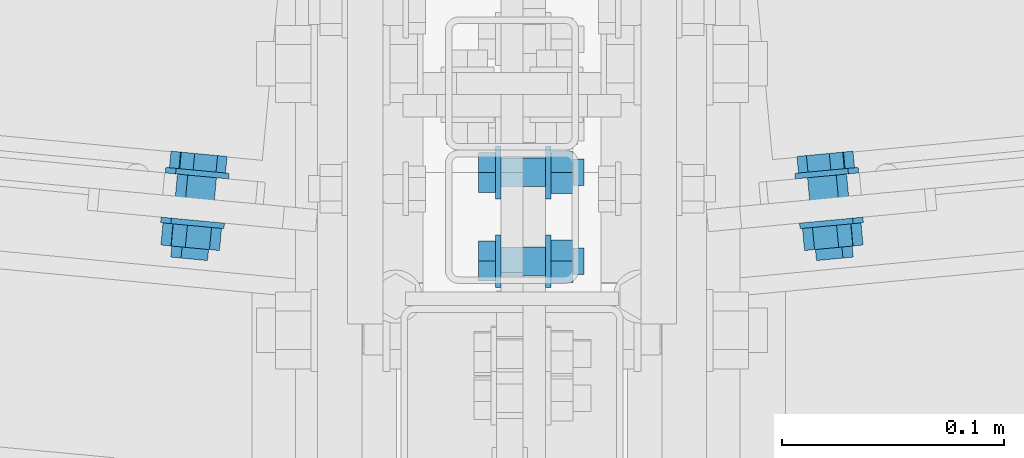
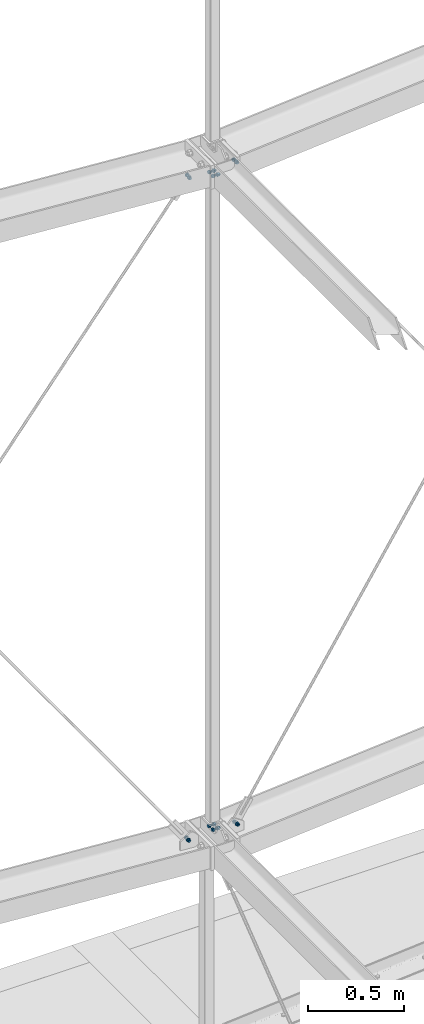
# One storey, part 245 of 271: 6 mechanical fasteners, 5 elements without a shape of their own.
"""IFC2X3 building model written with IfcOpenShell, lengths in millimetres."""

from ifc_helpers import new_model, si_unit, frame, origin_with_axes, origin_2d_with_axis, place, context, subcontext, project, spatial, polyline, circle, outline, extrude, source, transform, mapped, material, type_object, element, aggregate, save


model = new_model("IFC2X3")

# Units and contexts
model_context = context("Model", 3, precision=1e-05, world=origin_with_axes())
body_context = subcontext(model_context, "Body", "Model", "MODEL_VIEW")
ifc_project = project(units=[si_unit("LENGTHUNIT", "METRE", prefix="MILLI"), si_unit("AREAUNIT", "SQUARE_METRE"), si_unit("VOLUMEUNIT", "CUBIC_METRE"), si_unit("MASSUNIT", "GRAM", prefix="KILO"), si_unit("TIMEUNIT", "SECOND"), si_unit("PLANEANGLEUNIT", "RADIAN"), si_unit("SOLIDANGLEUNIT", "STERADIAN"), si_unit("THERMODYNAMICTEMPERATUREUNIT", "DEGREE_CELSIUS"), si_unit("LUMINOUSINTENSITYUNIT", "LUMEN")], contexts=[model_context])

# Site, building, storey
site_placement = place(None, origin_with_axes())
site = spatial("IfcSite", under=ifc_project, at=site_placement, Name="Undefined", CompositionType="ELEMENT")
building_placement = place(site_placement, origin_with_axes())
building = spatial("IfcBuilding", under=site, at=building_placement, Name="Undefined", CompositionType="ELEMENT")
storey_placement = place(building_placement, origin_with_axes())
storey = spatial("IfcBuildingStorey", under=building, at=storey_placement, Name="Undefined", CompositionType="ELEMENT", Elevation=0.0)

# Assembly, mechanical fastener
assembly_1_placement = place(storey_placement, origin_with_axes())
assembly_1 = element("IfcElementAssembly", 1, at=assembly_1_placement, inside=storey, AssemblyPlace="NOTDEFINED", PredefinedType="RIGID_FRAME")
ifc_material = material(Name="Undefined")
mechanical_fastener_type = type_object("IfcMechanicalFastenerType", Name="Bolt assembly")
shared_shape = source(origin_with_axes(), body_context, "Body", "SweptSolid", [
    extrude(circle(Radius=6.5, at=origin_2d_with_axis()), frame((0.0, -5.1, 0.0), z_axis=(0.0, 1.0, 0.0), x_axis=(1.0, 0.0, 0.0)), (0.0, 0.0, 1.0), 10.1),
    extrude(circle(Radius=6.5, at=origin_2d_with_axis()), frame((0.0, -14.9000000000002, 0.0), z_axis=(0.0, 1.0, 0.0), x_axis=(1.0, 0.0, 0.0)), (0.0, 0.0, 1.0), 10.0),
    extrude(outline(polyline([(10.39230484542, 0.0), (5.19615242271, 9.00000000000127), (-5.19615242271, 9.00000000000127), (-10.39230484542, 0.0), (-5.19615242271, -9.00000000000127), (5.19615242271, -9.00000000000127), (10.39230484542, 0.0)])), frame((0.0, -25.0000000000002, 0.0), z_axis=(0.0, 1.0, 0.0), x_axis=(1.0, 0.0, 0.0)), (0.0, 0.0, 1.0), 7.5),
    extrude(circle(Radius=6.0, at=origin_2d_with_axis()), frame((0.0, -17.5000000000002, 0.0), z_axis=(0.0, 1.0, 0.0), x_axis=(1.0, 0.0, 0.0)), (0.0, 0.0, 1.0), 40.0),
    extrude(circle(Radius=12.0, at=origin_2d_with_axis()), frame((0.0, -17.5000000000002, 0.0), z_axis=(0.0, 1.0, 0.0), x_axis=(1.0, 0.0, 0.0)), (0.0, 0.0, 1.0), 2.5),
    extrude(circle(Radius=12.0, at=origin_2d_with_axis()), frame((0.0, 5.00000000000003, 0.0), z_axis=(0.0, 1.0, 0.0), x_axis=(1.0, 0.0, 0.0)), (0.0, 0.0, 1.0), 2.5),
    extrude(outline(polyline([(10.96965511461, 0.0), (5.484827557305, 9.50000000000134), (-5.484827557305, 9.50000000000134), (-10.96965511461, 0.0), (-5.484827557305, -9.50000000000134), (5.484827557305, -9.50000000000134), (10.96965511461, 0.0)])), frame((0.0, 7.50000000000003, 0.0), z_axis=(0.0, 1.0, 0.0), x_axis=(1.0, 0.0, 0.0)), (0.0, 0.0, 1.0), 10.0),
])
mechanical_fastener_1_placement = place(assembly_1_placement, frame((6493.9122341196, 3708.61559757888, 1424.26219584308), z_axis=(0.809602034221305, 0.0763236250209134, -0.5819959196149), x_axis=(0.579416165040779, 0.0547372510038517, 0.813191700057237)))
mechanical_fastener_1 = element("IfcMechanicalFastener", 2, at=mechanical_fastener_1_placement, type_object=mechanical_fastener_type, material=ifc_material, Name="Bolt assembly", NominalDiameter=12.0, NominalLength=40.0, context=body_context, shape_type="MappedRepresentation", body=[
    mapped(shared_shape, transform((0.0, 0.0, 0.0))),
])
aggregate(assembly_1, [mechanical_fastener_1])

assembly_2_placement = place(storey_placement, origin_with_axes())
assembly_2 = element("IfcElementAssembly", 3, at=assembly_2_placement, inside=storey, AssemblyPlace="NOTDEFINED", PredefinedType="RIGID_FRAME")
mechanical_fastener_2_placement = place(assembly_2_placement, frame((6489.27550537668, 3708.17756918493, 5624.4318668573), z_axis=(-0.809182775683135, -0.0762839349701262, -0.582583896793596), x_axis=(0.580001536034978, 0.0547925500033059, -0.81277056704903)))
mechanical_fastener_2 = element("IfcMechanicalFastener", 4, at=mechanical_fastener_2_placement, type_object=mechanical_fastener_type, material=ifc_material, Name="Bolt assembly", NominalDiameter=12.0, NominalLength=40.0, context=body_context, shape_type="MappedRepresentation", body=[
    mapped(shared_shape, transform((0.0, 0.0, 0.0))),
])
aggregate(assembly_2, [mechanical_fastener_2])

assembly_3_placement = place(storey_placement, origin_with_axes())
assembly_3 = element("IfcElementAssembly", 5, at=assembly_3_placement, inside=storey, AssemblyPlace="NOTDEFINED", PredefinedType="RIGID_FRAME")
mechanical_fastener_3_placement = place(assembly_3_placement, frame((6358.37568736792, 3704.92439872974, 5596.59999990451), z_axis=(0.0, -1.0, 0.0), x_axis=(0.0, 0.0, -1.0)))
mechanical_fastener_3 = element("IfcMechanicalFastener", 6, at=mechanical_fastener_3_placement, type_object=mechanical_fastener_type, material=ifc_material, Name="Bolt assembly", NominalDiameter=12.0, NominalLength=40.0, context=body_context, shape_type="MappedRepresentation", body=[
    mapped(shared_shape, transform((0.0, 0.0, -20.0))),
    mapped(shared_shape, transform((0.0, 0.0, 20.0))),
])

assembly_4_placement = place(storey_placement, origin_with_axes())
assembly_4 = element("IfcElementAssembly", 7, at=assembly_4_placement, inside=storey, AssemblyPlace="NOTDEFINED", PredefinedType="RIGID_FRAME")
mechanical_fastener_4_placement = place(assembly_4_placement, frame((6207.47599175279, 3708.1777985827, 5624.43200758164), z_axis=(-0.809182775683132, 0.0762839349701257, 0.582583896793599), x_axis=(-0.58000153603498, 0.0547925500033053, -0.812770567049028)))
mechanical_fastener_4 = element("IfcMechanicalFastener", 8, at=mechanical_fastener_4_placement, type_object=mechanical_fastener_type, material=ifc_material, Name="Bolt assembly", NominalDiameter=12.0, NominalLength=40.0, context=body_context, shape_type="MappedRepresentation", body=[
    mapped(shared_shape, transform((0.0, 0.0, 0.0))),
])
aggregate(assembly_4, [mechanical_fastener_4])

assembly_5_placement = place(storey_placement, origin_with_axes())
assembly_5 = element("IfcElementAssembly", 9, at=assembly_5_placement, inside=storey, AssemblyPlace="NOTDEFINED", PredefinedType="RIGID_FRAME")
mechanical_fastener_5_placement = place(assembly_5_placement, frame((6202.83926275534, 3708.61582712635, 1424.26205527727), z_axis=(0.809602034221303, -0.0763236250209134, 0.581995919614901), x_axis=(-0.57941616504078, 0.0547372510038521, 0.813191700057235)))
mechanical_fastener_5 = element("IfcMechanicalFastener", 10, at=mechanical_fastener_5_placement, type_object=mechanical_fastener_type, material=ifc_material, Name="Bolt assembly", NominalDiameter=12.0, NominalLength=40.0, context=body_context, shape_type="MappedRepresentation", body=[
    mapped(shared_shape, transform((0.0, 0.0, 0.0))),
])
aggregate(assembly_5, [mechanical_fastener_5])

# Mechanical fastener
mechanical_fastener_6_placement = place(assembly_3_placement, frame((6358.37568736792, 3704.92439872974, 1452.09999990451), z_axis=(0.0, 1.0, 0.0), x_axis=(0.0, 0.0, 1.0)))
mechanical_fastener_6 = element("IfcMechanicalFastener", 11, at=mechanical_fastener_6_placement, type_object=mechanical_fastener_type, material=ifc_material, Name="Bolt assembly", NominalDiameter=12.0, NominalLength=40.0, context=body_context, shape_type="MappedRepresentation", body=[
    mapped(shared_shape, transform((0.0, 0.0, -20.0))),
    mapped(shared_shape, transform((0.0, 0.0, 20.0))),
])

aggregate(assembly_3, [mechanical_fastener_3, mechanical_fastener_6])

save(model, "model.ifc")
